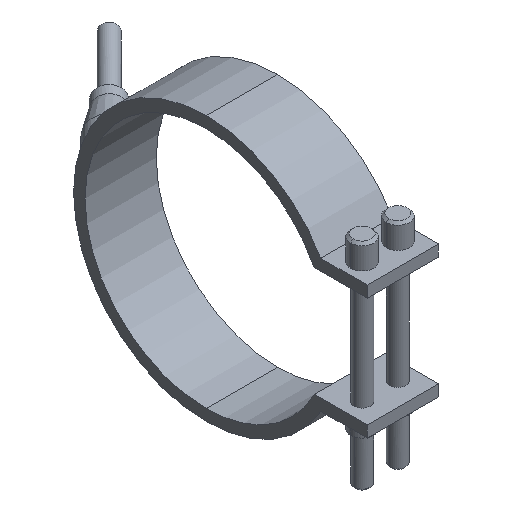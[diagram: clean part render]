
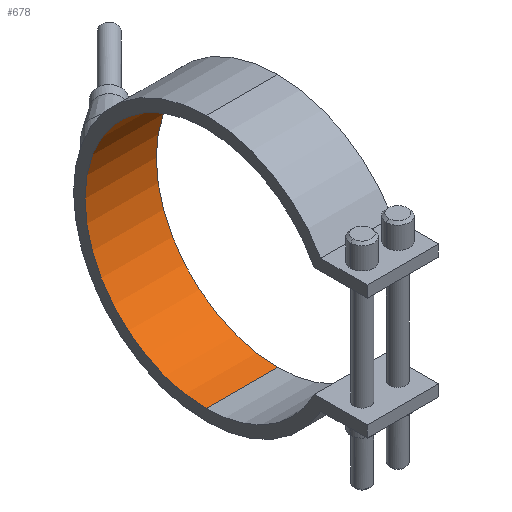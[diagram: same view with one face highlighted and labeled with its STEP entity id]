
A CAD part, isometric view. The second image highlights one B-rep face of the part: STEP entity #678.
In plain terms, the highlighted cylindrical face has radius 42.5 mm (diameter 85 mm), a partial arc.
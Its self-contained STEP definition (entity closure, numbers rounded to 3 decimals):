
#348=CARTESIAN_POINT('Vertex',(12.5,0.,42.5)) ;
#353=CARTESIAN_POINT('Axis2P3D Location',(12.5,0.,0.)) ;
#357=CARTESIAN_POINT('Vertex',(12.5,0.,-42.5)) ;
#464=CARTESIAN_POINT('Vertex',(-12.5,0.,-42.5)) ;
#467=CARTESIAN_POINT('Axis2P3D Location',(-12.5,0.,0.)) ;
#471=CARTESIAN_POINT('Vertex',(-12.5,0.,42.5)) ;
#650=CARTESIAN_POINT('Line Origine',(12.5,0.,42.5)) ;
#662=CARTESIAN_POINT('Axis2P3D Location',(12.5,0.,0.)) ;
#667=CARTESIAN_POINT('Line Origine',(12.5,0.,-42.5)) ;
#354=DIRECTION('Axis2P3D Direction',(1.,0.,0.)) ;
#468=DIRECTION('Axis2P3D Direction',(1.,0.,0.)) ;
#651=DIRECTION('Vector Direction',(1.,0.,0.)) ;
#663=DIRECTION('Axis2P3D Direction',(1.,0.,-0.)) ;
#664=DIRECTION('Axis2P3D XDirection',(0.,0.,-1.)) ;
#668=DIRECTION('Vector Direction',(1.,0.,0.)) ;
#355=AXIS2_PLACEMENT_3D('Circle Axis2P3D',#353,#354,$) ;
#469=AXIS2_PLACEMENT_3D('Circle Axis2P3D',#467,#468,$) ;
#665=AXIS2_PLACEMENT_3D('Cylinder Axis2P3D',#662,#663,#664) ;
#673=ORIENTED_EDGE('',*,*,#359,.T.) ;
#674=ORIENTED_EDGE('',*,*,#654,.T.) ;
#675=ORIENTED_EDGE('',*,*,#473,.F.) ;
#676=ORIENTED_EDGE('',*,*,#671,.T.) ;
#652=VECTOR('Line Direction',#651,1.) ;
#669=VECTOR('Line Direction',#668,1.) ;
#678=ADVANCED_FACE('29085025',(#677),#666,.F.) ;
#356=CIRCLE('generated circle',#355,42.5) ;
#470=CIRCLE('generated circle',#469,42.5) ;
#666=CYLINDRICAL_SURFACE('generated cylinder',#665,42.5) ;
#359=EDGE_CURVE('',#358,#349,#356,.T.) ;
#473=EDGE_CURVE('',#465,#472,#470,.T.) ;
#654=EDGE_CURVE('',#349,#472,#653,.F.) ;
#671=EDGE_CURVE('',#465,#358,#670,.T.) ;
#672=EDGE_LOOP('',(#673,#674,#675,#676)) ;
#677=FACE_OUTER_BOUND('',#672,.T.) ;
#653=LINE('Line',#650,#652) ;
#670=LINE('Line',#667,#669) ;
#349=VERTEX_POINT('',#348) ;
#358=VERTEX_POINT('',#357) ;
#465=VERTEX_POINT('',#464) ;
#472=VERTEX_POINT('',#471) ;
